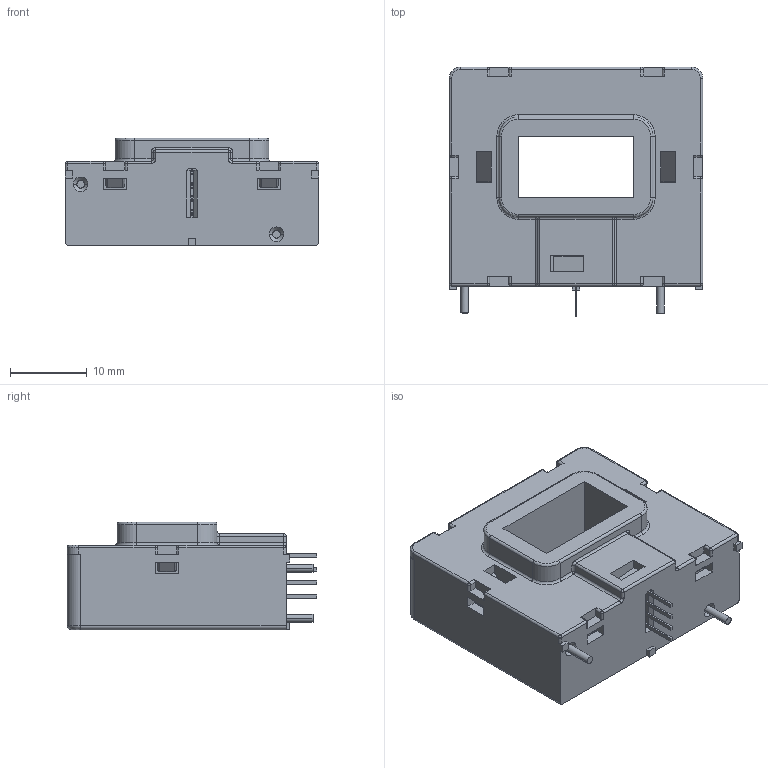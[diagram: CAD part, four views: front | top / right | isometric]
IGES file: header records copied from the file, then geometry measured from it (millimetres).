
Start section: Elysium IGES Interface
Global section: file name: Z:\YsT\HAIS\HAIS_3D.igs; native system: CoCreate Modeling 17.0  01-Apr-2010; preprocessor: CoCreate IGES_3D V2.2; author: Unknown; organization: Unknown; date: 20130925.113806; units: millimetre
Bounding box: 33 x 32.5 x 14 mm (x, y, z)
Volume: 9393.4 mm3; surface area: 4179.9 mm2
Topology: 1 solids, 1 shells, 324 faces, 838 edges, 506 vertices
Faces by surface type: bspline 324
